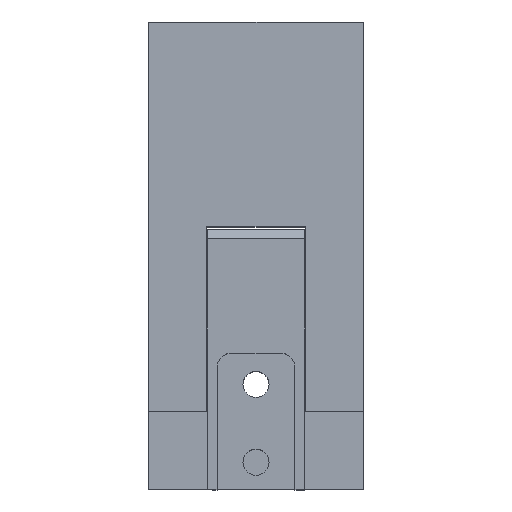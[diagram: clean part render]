
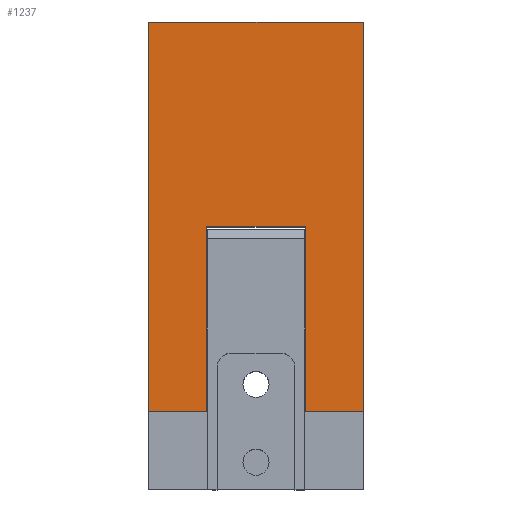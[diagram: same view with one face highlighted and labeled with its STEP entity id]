
A CAD part, top view. The second image highlights one B-rep face of the part: STEP entity #1237.
In plain terms, the highlighted planar face has unit normal (0, 0, 1).
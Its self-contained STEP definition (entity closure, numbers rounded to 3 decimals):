
#23 = VECTOR ( 'NONE', #3778, 1000. ) ;
#36 = VECTOR ( 'NONE', #2300, 1000. ) ;
#46 = VERTEX_POINT ( 'NONE', #3725 ) ;
#59 = LINE ( 'NONE', #2379, #4390 ) ;
#110 = VERTEX_POINT ( 'NONE', #323 ) ;
#118 = LINE ( 'NONE', #4867, #23 ) ;
#221 = VERTEX_POINT ( 'NONE', #1387 ) ;
#323 = CARTESIAN_POINT ( 'NONE',  ( -16.002, -3.175, 50.8 ) ) ;
#508 = VERTEX_POINT ( 'NONE', #3375 ) ;
#556 = ORIENTED_EDGE ( 'NONE', *, *, #1383, .F. ) ;
#610 = CARTESIAN_POINT ( 'NONE',  ( 34.925, 63.5, 50.8 ) ) ;
#637 = VERTEX_POINT ( 'NONE', #2028 ) ;
#644 = EDGE_CURVE ( 'NONE', #2810, #2702, #4126, .T. ) ;
#677 = CARTESIAN_POINT ( 'NONE',  ( 34.925, -63.5, 50.8 ) ) ;
#742 = ORIENTED_EDGE ( 'NONE', *, *, #1367, .F. ) ;
#748 = EDGE_CURVE ( 'NONE', #508, #2626, #2053, .T. ) ;
#1027 = DIRECTION ( 'NONE',  ( -1., 0., 0. ) ) ;
#1050 = CARTESIAN_POINT ( 'NONE',  ( 16.002, -63.5, 50.8 ) ) ;
#1063 = FACE_OUTER_BOUND ( 'NONE', #2119, .T. ) ;
#1192 = EDGE_CURVE ( 'NONE', #221, #2810, #59, .T. ) ;
#1237 = ADVANCED_FACE ( 'NONE', ( #1063 ), #1243, .F. ) ;
#1243 = PLANE ( 'NONE',  #2317 ) ;
#1248 = ORIENTED_EDGE ( 'NONE', *, *, #1192, .T. ) ;
#1321 = EDGE_CURVE ( 'NONE', #110, #2702, #4892, .T. ) ;
#1358 = EDGE_CURVE ( 'NONE', #46, #110, #1992, .T. ) ;
#1367 = EDGE_CURVE ( 'NONE', #508, #46, #3681, .T. ) ;
#1383 = EDGE_CURVE ( 'NONE', #637, #2626, #2899, .T. ) ;
#1387 = CARTESIAN_POINT ( 'NONE',  ( -34.925, 63.5, 50.8 ) ) ;
#1417 = EDGE_CURVE ( 'NONE', #221, #637, #118, .T. ) ;
#1506 = DIRECTION ( 'NONE',  ( 0., 1., 0. ) ) ;
#1857 = DIRECTION ( 'NONE',  ( 1., 0., 0. ) ) ;
#1874 = CARTESIAN_POINT ( 'NONE',  ( -16.002, -3.175, 50.8 ) ) ;
#1990 = ORIENTED_EDGE ( 'NONE', *, *, #1417, .F. ) ;
#1992 = LINE ( 'NONE', #1874, #3777 ) ;
#2017 = ORIENTED_EDGE ( 'NONE', *, *, #748, .T. ) ;
#2028 = CARTESIAN_POINT ( 'NONE',  ( 34.925, 63.5, 50.8 ) ) ;
#2051 = VECTOR ( 'NONE', #3634, 1000. ) ;
#2053 = LINE ( 'NONE', #3822, #2051 ) ;
#2059 = DIRECTION ( 'NONE',  ( -1., 0., 0. ) ) ;
#2119 = EDGE_LOOP ( 'NONE', ( #2547, #2739, #2495, #742, #2017, #556, #1990, #1248 ) ) ;
#2150 = CARTESIAN_POINT ( 'NONE',  ( -34.925, -63.5, 50.8 ) ) ;
#2300 = DIRECTION ( 'NONE',  ( 0., -1., 0. ) ) ;
#2317 = AXIS2_PLACEMENT_3D ( 'NONE', #3878, #2364, #2059 ) ;
#2364 = DIRECTION ( 'NONE',  ( 0., 0., -1. ) ) ;
#2379 = CARTESIAN_POINT ( 'NONE',  ( -34.925, 63.5, 50.8 ) ) ;
#2495 = ORIENTED_EDGE ( 'NONE', *, *, #1358, .F. ) ;
#2547 = ORIENTED_EDGE ( 'NONE', *, *, #644, .T. ) ;
#2626 = VERTEX_POINT ( 'NONE', #677 ) ;
#2702 = VERTEX_POINT ( 'NONE', #4019 ) ;
#2730 = DIRECTION ( 'NONE',  ( 0., -1., 0. ) ) ;
#2739 = ORIENTED_EDGE ( 'NONE', *, *, #1321, .F. ) ;
#2810 = VERTEX_POINT ( 'NONE', #4412 ) ;
#2899 = LINE ( 'NONE', #610, #36 ) ;
#2919 = DIRECTION ( 'NONE',  ( 0., -1., 0. ) ) ;
#3152 = CARTESIAN_POINT ( 'NONE',  ( -16.002, -63.5, 50.8 ) ) ;
#3375 = CARTESIAN_POINT ( 'NONE',  ( 16.002, -63.5, 50.8 ) ) ;
#3437 = VECTOR ( 'NONE', #2730, 1000. ) ;
#3634 = DIRECTION ( 'NONE',  ( 1., 0., 0. ) ) ;
#3648 = VECTOR ( 'NONE', #1857, 1000. ) ;
#3681 = LINE ( 'NONE', #1050, #4810 ) ;
#3725 = CARTESIAN_POINT ( 'NONE',  ( 16.002, -3.175, 50.8 ) ) ;
#3777 = VECTOR ( 'NONE', #1027, 1000. ) ;
#3778 = DIRECTION ( 'NONE',  ( 1., 0., 0. ) ) ;
#3822 = CARTESIAN_POINT ( 'NONE',  ( -34.925, -63.5, 50.8 ) ) ;
#3878 = CARTESIAN_POINT ( 'NONE',  ( -34.925, 63.5, 50.8 ) ) ;
#4019 = CARTESIAN_POINT ( 'NONE',  ( -16.002, -63.5, 50.8 ) ) ;
#4126 = LINE ( 'NONE', #2150, #3648 ) ;
#4390 = VECTOR ( 'NONE', #2919, 1000. ) ;
#4412 = CARTESIAN_POINT ( 'NONE',  ( -34.925, -63.5, 50.8 ) ) ;
#4810 = VECTOR ( 'NONE', #1506, 1000. ) ;
#4867 = CARTESIAN_POINT ( 'NONE',  ( -34.925, 63.5, 50.8 ) ) ;
#4892 = LINE ( 'NONE', #3152, #3437 ) ;
